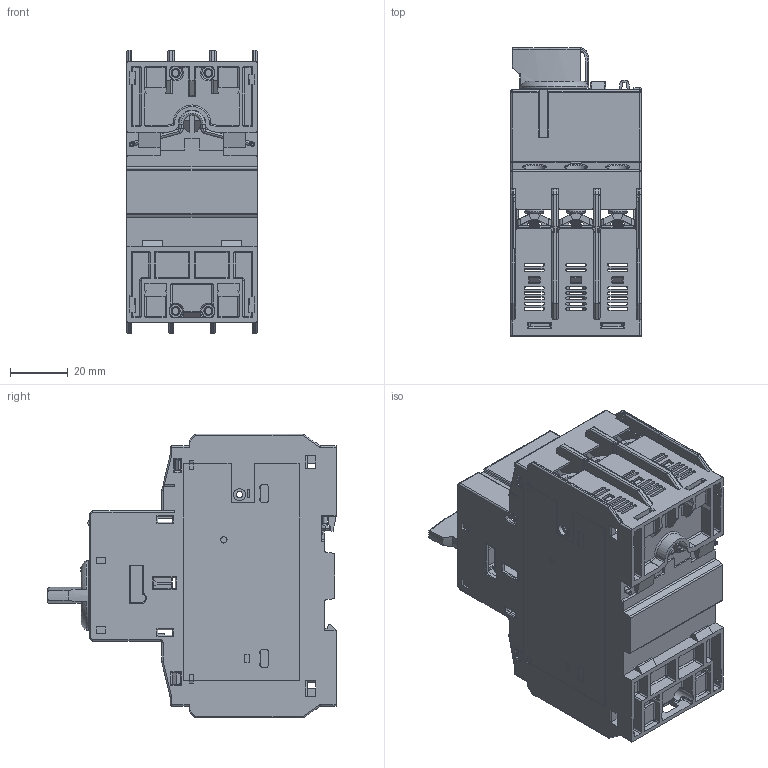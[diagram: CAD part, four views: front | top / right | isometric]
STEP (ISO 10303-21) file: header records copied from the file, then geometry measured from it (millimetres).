
FILE_DESCRIPTION((''),'2;1');
FILE_NAME('32H','2021-03-17T',('jshwangb'),(''),'CREO PARAMETRIC BY PTC INC, 2015380','CREO PARAMETRIC BY PTC INC, 2015380','');
FILE_SCHEMA(('CONFIG_CONTROL_DESIGN'));
Products named in the file (1): 32H
Bounding box: 45.2 x 99.6 x 98 mm (x, y, z)
Volume: 57102.7 mm3; surface area: 82855 mm2
Topology: 11 solids, 11 shells, 5054 faces, 14158 edges, 9020 vertices
Faces by surface type: plane 3539, cylinder 1127, bspline 167, cone 76, torus 74, sphere 68, extrusion 2, revolution 1
Entity records: 197245 total; most frequent: CARTESIAN_POINT 67998, ORIENTED_EDGE 28308, DIRECTION 24827, EDGE_CURVE 14154, VECTOR 11036, LINE 11034, VERTEX_POINT 9020, AXIS2_PLACEMENT_3D 6895
